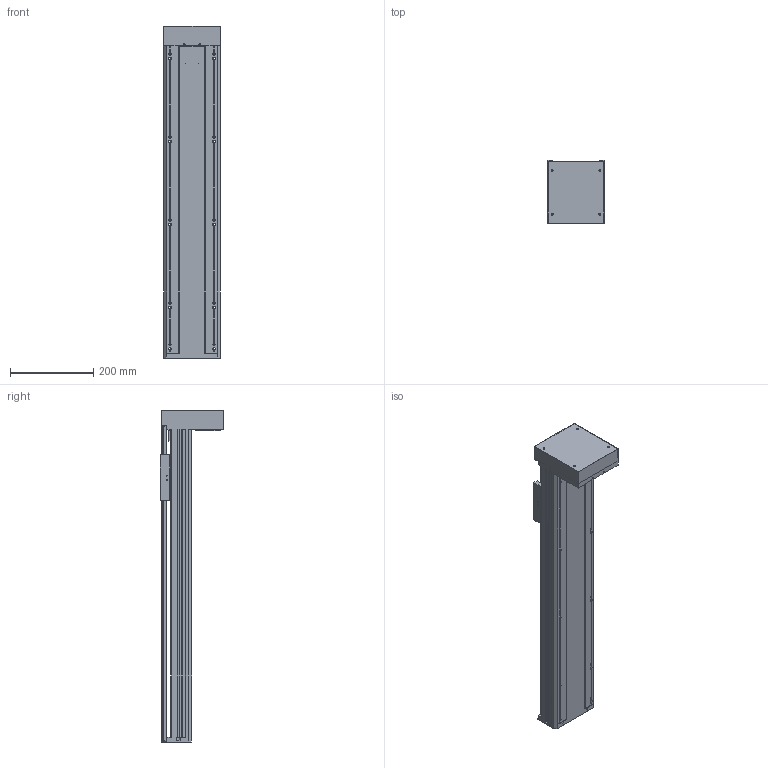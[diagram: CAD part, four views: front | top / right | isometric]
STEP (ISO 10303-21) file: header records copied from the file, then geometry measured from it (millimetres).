
FILE_DESCRIPTION(/* description */ (''),/* implementation_level */ '2;1');
FILE_NAME(/* name */ 'TKA136-FD-550_asm1.stp',/* time_stamp */ '2016-05-07T09:25:41+08:00',/* author */ (''),/* organization */ (''),/* preprocessor_version */ 'ST-DEVELOPER v15',/* originating_system */ 'SIEMENS PLM Software NX 8.5',/* authorisation */ '');
FILE_SCHEMA (('AUTOMOTIVE_DESIGN { 1 0 10303 214 3 1 1 1 }'));
Length unit declared in the file: millimetre
Products named in the file (3): 100-02; 100-01; TKA136-FD-550_asm1
Assembly tree (2 placements, depth 2):
  TKA136-FD-550_asm1
    100-01
    100-02
Bounding box: 136 x 152 x 800 mm (x, y, z)
Volume: 2639413.6 mm3; surface area: 1024143.6 mm2
Topology: 2 solids, 13 shells, 928 faces, 2585 edges, 1665 vertices
Faces by surface type: cylinder 441, plane 422, cone 65
Full cylindrical faces by diameter (mm): 3 x2, 3.3 x13, 4 x4, 4.2 x8, 4.5 x14, 5 x10, 5.5 x26, 6.6 x14, 8 x12, 10 x9, 10.5 x10, 11 x4, 11.6 x1, 12 x9, 15 x3, 16 x5, 17 x1, 24 x5, 26 x1, 28 x1, 46 x1, 50 x2
Entity records: 31098 total; most frequent: CARTESIAN_POINT 8042, DIRECTION 4840, ORIENTED_EDGE 4542, EDGE_CURVE 2271, AXIS2_PLACEMENT_3D 1831, VERTEX_POINT 1576, EDGE_LOOP 1308, LINE 1178
